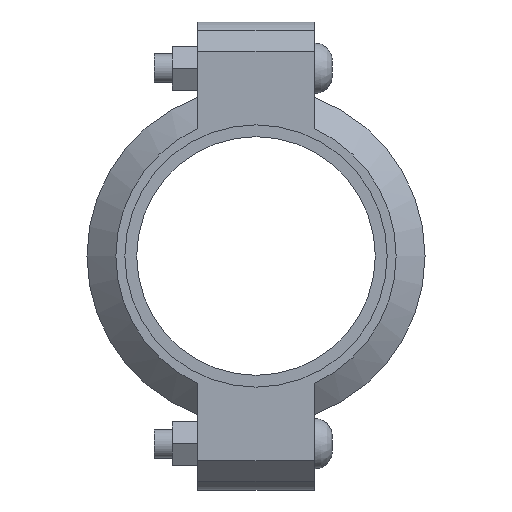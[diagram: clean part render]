
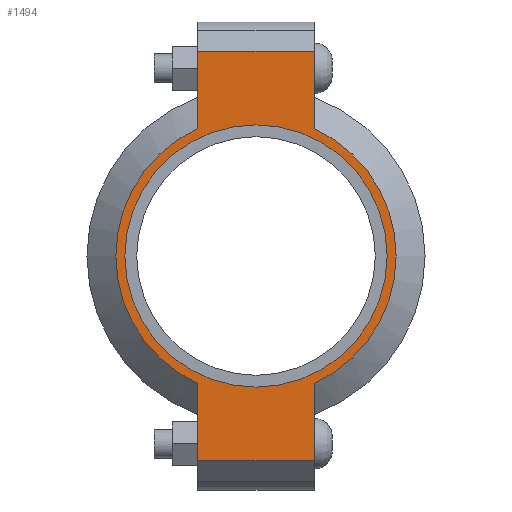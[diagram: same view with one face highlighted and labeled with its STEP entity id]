
A CAD part, left-side view. The second image highlights one B-rep face of the part: STEP entity #1494.
In plain terms, the highlighted planar face has unit normal (-1, 0, 0) as drawn and (0, 0, 1) by its records, which use the part's own axes.
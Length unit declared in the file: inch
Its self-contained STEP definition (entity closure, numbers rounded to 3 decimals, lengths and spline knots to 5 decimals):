
#118=LINE('',#2607,#211);
#126=LINE('',#2643,#219);
#133=LINE('',#2664,#226);
#142=LINE('',#2696,#235);
#143=LINE('',#2700,#236);
#144=LINE('',#2702,#237);
#211=VECTOR('',#2135,0.3937);
#219=VECTOR('',#2151,0.3937);
#226=VECTOR('',#2170,0.3937);
#235=VECTOR('',#2195,0.3937);
#236=VECTOR('',#2200,0.3937);
#237=VECTOR('',#2201,0.3937);
#293=FACE_BOUND('',#471,.T.);
#365=FACE_OUTER_BOUND('',#470,.T.);
#470=EDGE_LOOP('',(#1235,#1236,#1237,#1238,#1239,#1240,#1241,#1242));
#471=EDGE_LOOP('',(#1243));
#543=CIRCLE('',#1713,2.25);
#569=CIRCLE('',#1772,2.405);
#570=CIRCLE('',#1773,2.405);
#635=VERTEX_POINT('',#2423);
#678=VERTEX_POINT('',#2604);
#679=VERTEX_POINT('',#2606);
#690=VERTEX_POINT('',#2638);
#691=VERTEX_POINT('',#2642);
#698=VERTEX_POINT('',#2661);
#699=VERTEX_POINT('',#2663);
#709=VERTEX_POINT('',#2699);
#710=VERTEX_POINT('',#2701);
#791=EDGE_CURVE('',#635,#635,#543,.T.);
#852=EDGE_CURVE('',#679,#678,#118,.T.);
#866=EDGE_CURVE('',#691,#690,#126,.T.);
#876=EDGE_CURVE('',#699,#698,#133,.T.);
#891=EDGE_CURVE('',#691,#678,#142,.T.);
#892=EDGE_CURVE('',#690,#699,#569,.T.);
#893=EDGE_CURVE('',#709,#698,#143,.T.);
#894=EDGE_CURVE('',#709,#710,#144,.T.);
#895=EDGE_CURVE('',#710,#679,#570,.T.);
#1235=ORIENTED_EDGE('',*,*,#891,.F.);
#1236=ORIENTED_EDGE('',*,*,#866,.T.);
#1237=ORIENTED_EDGE('',*,*,#892,.T.);
#1238=ORIENTED_EDGE('',*,*,#876,.T.);
#1239=ORIENTED_EDGE('',*,*,#893,.F.);
#1240=ORIENTED_EDGE('',*,*,#894,.T.);
#1241=ORIENTED_EDGE('',*,*,#895,.T.);
#1242=ORIENTED_EDGE('',*,*,#852,.T.);
#1243=ORIENTED_EDGE('',*,*,#791,.T.);
#1336=PLANE('',#1771);
#1494=ADVANCED_FACE('',(#365,#293),#1336,.T.);
#1713=AXIS2_PLACEMENT_3D('',#2425,#2011,#2012);
#1771=AXIS2_PLACEMENT_3D('',#2697,#2196,#2197);
#1772=AXIS2_PLACEMENT_3D('',#2698,#2198,#2199);
#1773=AXIS2_PLACEMENT_3D('',#2703,#2202,#2203);
#2011=DIRECTION('center_axis',(0.,0.,-1.));
#2012=DIRECTION('ref_axis',(-1.,0.,0.));
#2135=DIRECTION('',(-1.,0.,0.));
#2151=DIRECTION('',(1.,0.,0.));
#2170=DIRECTION('',(1.,0.,0.));
#2195=DIRECTION('',(0.,1.,0.));
#2196=DIRECTION('center_axis',(0.,0.,1.));
#2197=DIRECTION('ref_axis',(1.,0.,0.));
#2198=DIRECTION('center_axis',(0.,0.,1.));
#2199=DIRECTION('ref_axis',(-1.,0.,0.));
#2200=DIRECTION('',(0.,-1.,0.));
#2201=DIRECTION('',(-1.,0.,0.));
#2202=DIRECTION('center_axis',(0.,0.,1.));
#2203=DIRECTION('ref_axis',(-1.,0.,0.));
#2423=CARTESIAN_POINT('',(2.25,0.,1.065));
#2425=CARTESIAN_POINT('Origin',(0.,0.,1.065));
#2604=CARTESIAN_POINT('',(-3.515,1.,1.065));
#2606=CARTESIAN_POINT('',(-2.18724,1.,1.065));
#2607=CARTESIAN_POINT('',(-4.015,1.,1.065));
#2638=CARTESIAN_POINT('',(-2.18724,-1.,1.065));
#2642=CARTESIAN_POINT('',(-3.515,-1.,1.065));
#2643=CARTESIAN_POINT('',(4.015,-1.,1.065));
#2661=CARTESIAN_POINT('',(3.515,-1.,1.065));
#2663=CARTESIAN_POINT('',(2.18724,-1.,1.065));
#2664=CARTESIAN_POINT('',(4.015,-1.,1.065));
#2696=CARTESIAN_POINT('',(-3.515,0.5,1.065));
#2697=CARTESIAN_POINT('Origin',(0.,0.,1.065));
#2698=CARTESIAN_POINT('Origin',(0.,0.,1.065));
#2699=CARTESIAN_POINT('',(3.515,1.,1.065));
#2700=CARTESIAN_POINT('',(3.515,-0.5,1.065));
#2701=CARTESIAN_POINT('',(2.18724,1.,1.065));
#2702=CARTESIAN_POINT('',(-4.015,1.,1.065));
#2703=CARTESIAN_POINT('Origin',(0.,0.,1.065));
